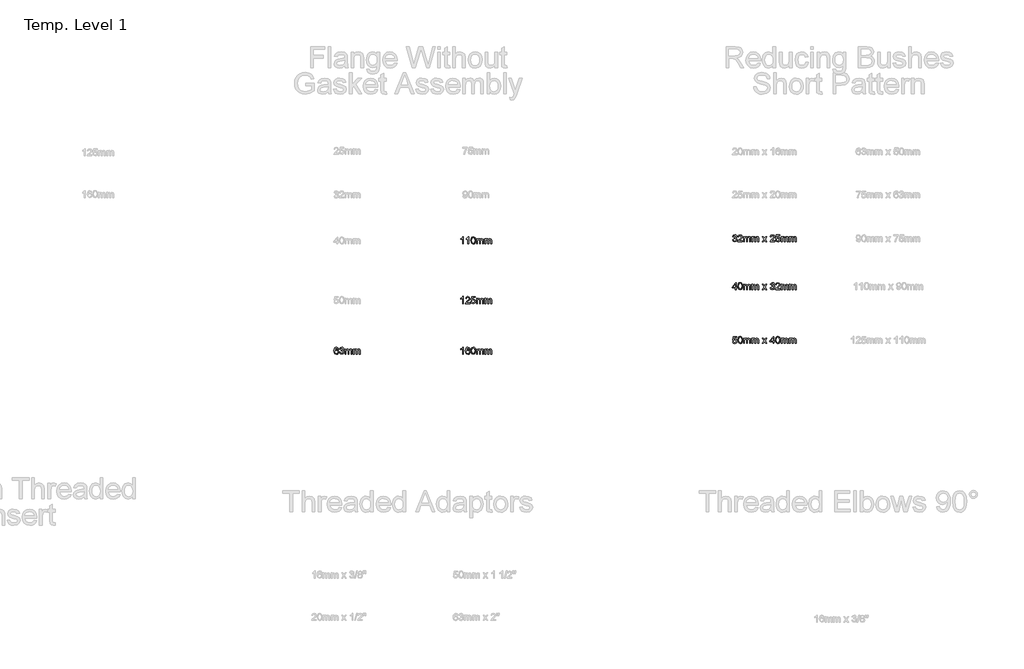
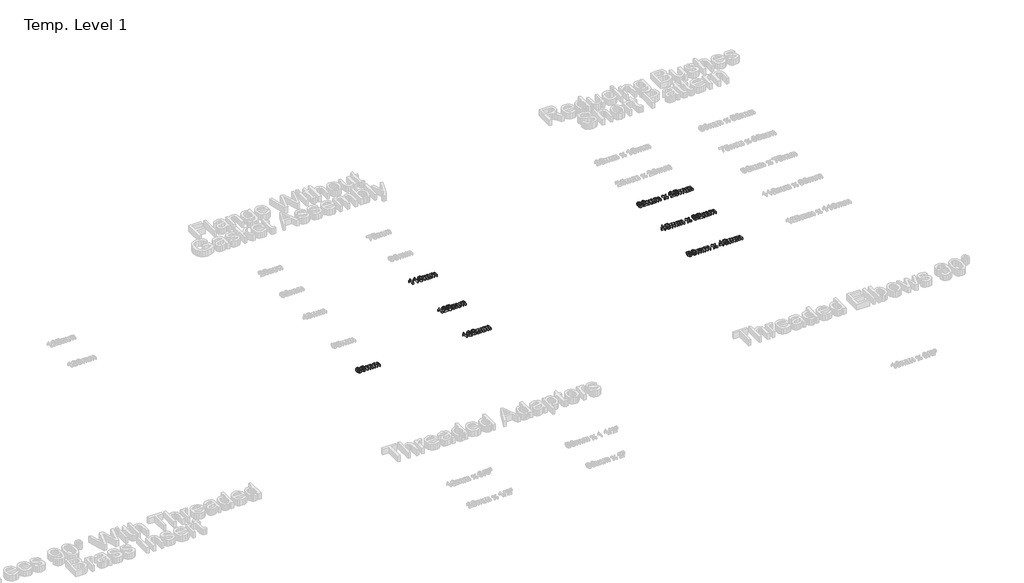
# One storey, part 22 of 62: 7 proxies.
"""IFC4 building model written with IfcOpenShell, lengths in millimetres."""

from ifc_helpers import new_model, si_unit, origin, origin_with_axes, place, context, project, spatial, polyline, outline, extrude, element, save

model = new_model("IFC4")

# Units and contexts
model_context = context("Model", 3, world=origin())
ifc_project = project(units=[si_unit("LENGTHUNIT", "METRE", prefix="MILLI")], contexts=[model_context])

# Site, building, storey
site = spatial("IfcSite", under=ifc_project)
building = spatial("IfcBuilding", under=site)
storey = spatial("IfcBuildingStorey", under=building, Name="Temp. Level 1", Elevation=0.0)

# Proxies
placement = place(None, origin())
element("IfcBuildingElementProxy", 1, Name="50mm Arial", ObjectType="50mm Arial", at=placement, inside=storey, context=model_context, shape_type="SweptSolid", body=[
    extrude(outline(polyline([(20936.7745802, -8936.3055311), (20930.620734, -8937.0747619), (20928.2890033, -8931.9425504), (20922.1231379, -8929.3824542), (20916.5702533, -8930.8728388), (20912.3695321, -8936.4677907), (20910.620734, -8947.4353388), (20916.0474167, -8942.525483), (20922.7721763, -8940.9209157), (20933.2289071, -8945.307935), (20937.5438109, -8956.6420696), (20935.5125609, -8965.1336561), (20929.9236186, -8971.1432715), (20921.8587148, -8973.228608), (20909.3166475, -8967.6997619), (20905.6793278, -8960.3800504), (20904.4668879, -8949.478608), (20905.8130417, -8937.2219975), (20909.8515033, -8928.8415888), (20915.3653254, -8924.6318532), (20922.5077533, -8923.228608), (20932.2313109, -8926.7021657), (20936.7745802, -8936.3055311)]), holes=[polyline([(20910.620734, -8956.5459157), (20912.0450129, -8961.8764446), (20915.8310706, -8965.7466369), (20921.3779456, -8967.0747619), (20928.6315513, -8964.322358), (20931.3899648, -8956.8463965), (20928.667609, -8949.6889446), (20921.1255417, -8947.0747619), (20913.6796283, -8949.6889446), (20910.620734, -8956.5459157)])]), origin_with_axes(), (0.0, 0.0, 1.0), 15.0),
    extrude(outline(polyline([(20942.9284263, -8959.3824542), (20949.0822725, -8958.6132234), (20952.4777052, -8965.0915888), (20958.8298686, -8967.0747619), (20966.3058302, -8964.3463965), (20969.0822725, -8957.5915888), (20966.3298686, -8951.2274061), (20959.3346763, -8948.7093773), (20955.0197725, -8949.3824542), (20955.7048686, -8943.228608), (20963.6736186, -8941.5338965), (20966.7745802, -8936.1012042), (20964.526984, -8931.2875023), (20958.7337148, -8929.3824542), (20952.8683302, -8931.3055311), (20949.8515033, -8937.0747619), (20943.6976571, -8936.3055311), (20948.7337148, -8926.6540888), (20958.5173686, -8923.228608), (20965.9392436, -8924.91731), (20971.1315513, -8929.5326946), (20972.9284263, -8935.7406273), (20971.2216956, -8941.4137042), (20966.1736186, -8945.4882234), (20972.8803494, -8949.6949542), (20975.2361186, -8957.6997619), (20970.5245802, -8968.7093773), (20958.6135225, -8973.228608), (20947.8202533, -8969.370435), (20942.9284263, -8959.3824542)])), origin_with_axes(), (0.0, 0.0, 1.0), 15.0),
    extrude(outline(polyline([(20982.1591956, -8972.4593773), (20982.1591956, -8936.3055311), (20988.3130417, -8936.3055311), (20988.3130417, -8942.2550504), (20992.5438109, -8937.3812523), (20998.5654456, -8935.5363004), (21004.7313109, -8937.41731), (21008.120734, -8942.6877427), (21012.9224167, -8937.3241609), (21018.9861186, -8935.5363004), (21027.0329936, -8938.51106), (21029.8515033, -8947.6757234), (21029.8515033, -8972.4593773), (21023.6976571, -8972.4593773), (21023.6976571, -8950.3199542), (21023.1267436, -8945.181733), (21021.0594359, -8942.651685), (21017.5438109, -8941.6901465), (21011.4921283, -8944.1540888), (21009.0822725, -8952.0507234), (21009.0822725, -8972.4593773), (21002.9284263, -8972.4593773), (21002.9284263, -8949.634858), (21001.5041475, -8943.6733196), (20996.8346763, -8941.6901465), (20992.2793879, -8943.0122619), (20989.2505417, -8946.8824542), (20988.3130417, -8954.2262042), (20988.3130417, -8972.4593773), (20982.1591956, -8972.4593773)])), origin_with_axes(), (0.0, 0.0, 1.0), 15.0),
    extrude(outline(polyline([(21039.0822725, -8972.4593773), (21039.0822725, -8936.3055311), (21045.2361186, -8936.3055311), (21045.2361186, -8942.2550504), (21049.4668879, -8937.3812523), (21055.4885225, -8935.5363004), (21061.6543879, -8937.41731), (21065.0438109, -8942.6877427), (21069.8454936, -8937.3241609), (21075.9091956, -8935.5363004), (21083.9560706, -8938.51106), (21086.7745802, -8947.6757234), (21086.7745802, -8972.4593773), (21080.620734, -8972.4593773), (21080.620734, -8950.3199542), (21080.0498206, -8945.181733), (21077.9825129, -8942.651685), (21074.4668879, -8941.6901465), (21068.4152052, -8944.1540888), (21066.0053494, -8952.0507234), (21066.0053494, -8972.4593773), (21059.8515033, -8972.4593773), (21059.8515033, -8949.634858), (21058.4272244, -8943.6733196), (21053.7577533, -8941.6901465), (21049.2024648, -8943.0122619), (21046.1736186, -8946.8824542), (21045.2361186, -8954.2262042), (21045.2361186, -8972.4593773), (21039.0822725, -8972.4593773)])), origin_with_axes(), (0.0, 0.0, 1.0), 15.0),
])
element("IfcBuildingElementProxy", 2, Name="50mm Arial", ObjectType="50mm Arial", at=placement, inside=storey, context=model_context, shape_type="SweptSolid", body=[
    extrude(outline(polyline([(21805.4668879, -8205.198517), (21799.3130417, -8205.198517), (21799.3130417, -8166.8331324), (21793.4837148, -8170.9857766), (21787.0053494, -8174.0927478), (21787.0053494, -8168.2754401), (21796.0257821, -8162.5182286), (21801.5005417, -8155.9677478), (21805.4668879, -8155.9677478), (21805.4668879, -8205.198517)])), origin_with_axes(), (0.0, 0.0, 1.0), 15.0),
    extrude(outline(polyline([(21843.1591956, -8205.198517), (21837.0053494, -8205.198517), (21837.0053494, -8166.8331324), (21831.1760225, -8170.9857766), (21824.6976571, -8174.0927478), (21824.6976571, -8168.2754401), (21833.7180898, -8162.5182286), (21839.1928494, -8155.9677478), (21843.1591956, -8155.9677478), (21843.1591956, -8205.198517)])), origin_with_axes(), (0.0, 0.0, 1.0), 15.0),
    extrude(outline(polyline([(21857.7745802, -8180.979767), (21859.5834744, -8166.8151036), (21864.9560706, -8158.6480362), (21873.9284263, -8155.9677478), (21881.1159263, -8157.5542862), (21886.0798686, -8162.1276036), (21888.964484, -8169.4112574), (21890.0822725, -8180.979767), (21888.2914071, -8195.0843343), (21882.9368398, -8203.2694305), (21873.9284263, -8205.9677478), (21862.6784263, -8201.2802478), (21859.0005417, -8192.9539257), (21857.7745802, -8180.979767)]), holes=[polyline([(21863.9284263, -8180.9677478), (21866.8130417, -8196.2501997), (21873.9284263, -8199.8139016), (21881.0438109, -8196.2381805), (21883.9284263, -8180.9677478), (21881.1399648, -8165.8595747), (21873.8563109, -8162.1215939), (21866.9091956, -8165.4148632), (21863.9284263, -8180.9677478)])]), origin_with_axes(), (0.0, 0.0, 1.0), 15.0),
    extrude(outline(polyline([(21897.0053494, -8205.198517), (21897.0053494, -8169.0446709), (21903.1591956, -8169.0446709), (21903.1591956, -8174.9941901), (21907.3899648, -8170.120392), (21913.4115994, -8168.2754401), (21919.5774648, -8170.1564497), (21922.9668879, -8175.4268824), (21927.7685706, -8170.0633007), (21933.8322725, -8168.2754401), (21941.8791475, -8171.2501997), (21944.6976571, -8180.4148632), (21944.6976571, -8205.198517), (21938.5438109, -8205.198517), (21938.5438109, -8183.0590939), (21937.9728975, -8177.9208728), (21935.9055898, -8175.3908247), (21932.3899648, -8174.4292862), (21926.3382821, -8176.8932286), (21923.9284263, -8184.7898632), (21923.9284263, -8205.198517), (21917.7745802, -8205.198517), (21917.7745802, -8182.3739978), (21916.3503013, -8176.4124593), (21911.6808302, -8174.4292862), (21907.1255417, -8175.7514016), (21904.0966956, -8179.6215939), (21903.1591956, -8186.9653439), (21903.1591956, -8205.198517), (21897.0053494, -8205.198517)])), origin_with_axes(), (0.0, 0.0, 1.0), 15.0),
    extrude(outline(polyline([(21953.9284263, -8205.198517), (21953.9284263, -8169.0446709), (21960.0822725, -8169.0446709), (21960.0822725, -8174.9941901), (21964.3130417, -8170.120392), (21970.3346763, -8168.2754401), (21976.5005417, -8170.1564497), (21979.8899648, -8175.4268824), (21984.6916475, -8170.0633007), (21990.7553494, -8168.2754401), (21998.8022244, -8171.2501997), (22001.620734, -8180.4148632), (22001.620734, -8205.198517), (21995.4668879, -8205.198517), (21995.4668879, -8183.0590939), (21994.8959744, -8177.9208728), (21992.8286667, -8175.3908247), (21989.3130417, -8174.4292862), (21983.261359, -8176.8932286), (21980.8515033, -8184.7898632), (21980.8515033, -8205.198517), (21974.6976571, -8205.198517), (21974.6976571, -8182.3739978), (21973.2733783, -8176.4124593), (21968.6039071, -8174.4292862), (21964.0486186, -8175.7514016), (21961.0197725, -8179.6215939), (21960.0822725, -8186.9653439), (21960.0822725, -8205.198517), (21953.9284263, -8205.198517)])), origin_with_axes(), (0.0, 0.0, 1.0), 15.0),
])
element("IfcBuildingElementProxy", 3, Name="50mm Arial", ObjectType="50mm Arial", at=placement, inside=storey, context=model_context, shape_type="SweptSolid", body=[
    extrude(outline(polyline([(21805.4668879, -8619.9593773), (21799.3130417, -8619.9593773), (21799.3130417, -8581.5939927), (21793.4837148, -8585.7466369), (21787.0053494, -8588.853608), (21787.0053494, -8583.0363004), (21796.0257821, -8577.2790888), (21801.5005417, -8570.728608), (21805.4668879, -8570.728608), (21805.4668879, -8619.9593773)])), origin_with_axes(), (0.0, 0.0, 1.0), 15.0),
    extrude(outline(polyline([(21851.620734, -8613.8055311), (21851.620734, -8619.9593773), (21819.3130417, -8619.9593773), (21819.9740994, -8615.7165888), (21823.7120802, -8609.1841369), (21831.4164071, -8602.0507234), (21842.0414071, -8591.7983196), (21844.6976571, -8584.8271657), (21842.1916475, -8579.1841369), (21835.6471763, -8576.8824542), (21828.8262629, -8579.1300504), (21826.2361186, -8585.3439927), (21820.0822725, -8584.5747619), (21824.7998206, -8574.2742811), (21835.7793879, -8570.728608), (21846.7950129, -8574.6709157), (21850.8515033, -8584.4545696), (21849.7577533, -8590.2899061), (21846.1219359, -8596.32356), (21837.3058302, -8604.7550504), (21830.2265033, -8610.6745215), (21827.4500609, -8613.8055311), (21851.620734, -8613.8055311)])), origin_with_axes(), (0.0, 0.0, 1.0), 15.0),
    extrude(outline(polyline([(21857.7745802, -8606.8824542), (21863.9284263, -8606.1132234), (21867.0293879, -8612.4533677), (21873.4596763, -8614.5747619), (21881.1760225, -8611.6240407), (21883.9284263, -8603.7935119), (21881.3503013, -8596.4858196), (21873.5558302, -8593.8055311), (21868.1531859, -8594.8752427), (21864.6976571, -8597.651685), (21858.5438109, -8596.8824542), (21863.9284263, -8571.4978388), (21887.7745802, -8571.4978388), (21887.7745802, -8577.651685), (21868.9043879, -8577.651685), (21866.2721763, -8591.2093773), (21875.2745802, -8587.651685), (21885.7974167, -8592.0627427), (21890.0822725, -8603.4088965), (21886.2240994, -8614.8271657), (21880.683234, -8619.2532475), (21873.4356379, -8620.728608), (21862.5762629, -8616.9365407), (21857.7745802, -8606.8824542)])), origin_with_axes(), (0.0, 0.0, 1.0), 15.0),
    extrude(outline(polyline([(21897.0053494, -8619.9593773), (21897.0053494, -8583.8055311), (21903.1591956, -8583.8055311), (21903.1591956, -8589.7550504), (21907.3899648, -8584.8812523), (21913.4115994, -8583.0363004), (21919.5774648, -8584.91731), (21922.9668879, -8590.1877427), (21927.7685706, -8584.8241609), (21933.8322725, -8583.0363004), (21941.8791475, -8586.01106), (21944.6976571, -8595.1757234), (21944.6976571, -8619.9593773), (21938.5438109, -8619.9593773), (21938.5438109, -8597.8199542), (21937.9728975, -8592.681733), (21935.9055898, -8590.151685), (21932.3899648, -8589.1901465), (21926.3382821, -8591.6540888), (21923.9284263, -8599.5507234), (21923.9284263, -8619.9593773), (21917.7745802, -8619.9593773), (21917.7745802, -8597.134858), (21916.3503013, -8591.1733196), (21911.6808302, -8589.1901465), (21907.1255417, -8590.5122619), (21904.0966956, -8594.3824542), (21903.1591956, -8601.7262042), (21903.1591956, -8619.9593773), (21897.0053494, -8619.9593773)])), origin_with_axes(), (0.0, 0.0, 1.0), 15.0),
    extrude(outline(polyline([(21953.9284263, -8619.9593773), (21953.9284263, -8583.8055311), (21960.0822725, -8583.8055311), (21960.0822725, -8589.7550504), (21964.3130417, -8584.8812523), (21970.3346763, -8583.0363004), (21976.5005417, -8584.91731), (21979.8899648, -8590.1877427), (21984.6916475, -8584.8241609), (21990.7553494, -8583.0363004), (21998.8022244, -8586.01106), (22001.620734, -8595.1757234), (22001.620734, -8619.9593773), (21995.4668879, -8619.9593773), (21995.4668879, -8597.8199542), (21994.8959744, -8592.681733), (21992.8286667, -8590.151685), (21989.3130417, -8589.1901465), (21983.261359, -8591.6540888), (21980.8515033, -8599.5507234), (21980.8515033, -8619.9593773), (21974.6976571, -8619.9593773), (21974.6976571, -8597.134858), (21973.2733783, -8591.1733196), (21968.6039071, -8589.1901465), (21964.0486186, -8590.5122619), (21961.0197725, -8594.3824542), (21960.0822725, -8601.7262042), (21960.0822725, -8619.9593773), (21953.9284263, -8619.9593773)])), origin_with_axes(), (0.0, 0.0, 1.0), 15.0),
])
element("IfcBuildingElementProxy", 4, Name="50mm Arial", ObjectType="50mm Arial", at=placement, inside=storey, context=model_context, shape_type="SweptSolid", body=[
    extrude(outline(polyline([(21805.4668879, -8972.4593773), (21799.3130417, -8972.4593773), (21799.3130417, -8934.0939927), (21793.4837148, -8938.2466369), (21787.0053494, -8941.353608), (21787.0053494, -8935.5363004), (21796.0257821, -8929.7790888), (21801.5005417, -8923.228608), (21805.4668879, -8923.228608), (21805.4668879, -8972.4593773)])), origin_with_axes(), (0.0, 0.0, 1.0), 15.0),
    extrude(outline(polyline([(21851.620734, -8936.3055311), (21845.4668879, -8937.0747619), (21843.1351571, -8931.9425504), (21836.9692917, -8929.3824542), (21831.4164071, -8930.8728388), (21827.2156859, -8936.4677907), (21825.4668879, -8947.4353388), (21830.8935706, -8942.525483), (21837.6183302, -8940.9209157), (21848.0750609, -8945.307935), (21852.3899648, -8956.6420696), (21850.3587148, -8965.1336561), (21844.7697725, -8971.1432715), (21836.7048686, -8973.228608), (21824.1628013, -8967.6997619), (21820.5254816, -8960.3800504), (21819.3130417, -8949.478608), (21820.6591956, -8937.2219975), (21824.6976571, -8928.8415888), (21830.2114792, -8924.6318532), (21837.3539071, -8923.228608), (21847.0774648, -8926.7021657), (21851.620734, -8936.3055311)]), holes=[polyline([(21825.4668879, -8956.5459157), (21826.8911667, -8961.8764446), (21830.6772244, -8965.7466369), (21836.2240994, -8967.0747619), (21843.4777052, -8964.322358), (21846.2361186, -8956.8463965), (21843.5137629, -8949.6889446), (21835.9716956, -8947.0747619), (21828.5257821, -8949.6889446), (21825.4668879, -8956.5459157)])]), origin_with_axes(), (0.0, 0.0, 1.0), 15.0),
    extrude(outline(polyline([(21857.7745802, -8948.2406273), (21859.5834744, -8934.0759638), (21864.9560706, -8925.9088965), (21873.9284263, -8923.228608), (21881.1159263, -8924.8151465), (21886.0798686, -8929.3884638), (21888.964484, -8936.6721177), (21890.0822725, -8948.2406273), (21888.2914071, -8962.3451946), (21882.9368398, -8970.5302907), (21873.9284263, -8973.228608), (21862.6784263, -8968.541108), (21859.0005417, -8960.2147859), (21857.7745802, -8948.2406273)]), holes=[polyline([(21863.9284263, -8948.228608), (21866.8130417, -8963.51106), (21873.9284263, -8967.0747619), (21881.0438109, -8963.4990407), (21883.9284263, -8948.228608), (21881.1399648, -8933.120435), (21873.8563109, -8929.3824542), (21866.9091956, -8932.6757234), (21863.9284263, -8948.228608)])]), origin_with_axes(), (0.0, 0.0, 1.0), 15.0),
    extrude(outline(polyline([(21897.0053494, -8972.4593773), (21897.0053494, -8936.3055311), (21903.1591956, -8936.3055311), (21903.1591956, -8942.2550504), (21907.3899648, -8937.3812523), (21913.4115994, -8935.5363004), (21919.5774648, -8937.41731), (21922.9668879, -8942.6877427), (21927.7685706, -8937.3241609), (21933.8322725, -8935.5363004), (21941.8791475, -8938.51106), (21944.6976571, -8947.6757234), (21944.6976571, -8972.4593773), (21938.5438109, -8972.4593773), (21938.5438109, -8950.3199542), (21937.9728975, -8945.181733), (21935.9055898, -8942.651685), (21932.3899648, -8941.6901465), (21926.3382821, -8944.1540888), (21923.9284263, -8952.0507234), (21923.9284263, -8972.4593773), (21917.7745802, -8972.4593773), (21917.7745802, -8949.634858), (21916.3503013, -8943.6733196), (21911.6808302, -8941.6901465), (21907.1255417, -8943.0122619), (21904.0966956, -8946.8824542), (21903.1591956, -8954.2262042), (21903.1591956, -8972.4593773), (21897.0053494, -8972.4593773)])), origin_with_axes(), (0.0, 0.0, 1.0), 15.0),
    extrude(outline(polyline([(21953.9284263, -8972.4593773), (21953.9284263, -8936.3055311), (21960.0822725, -8936.3055311), (21960.0822725, -8942.2550504), (21964.3130417, -8937.3812523), (21970.3346763, -8935.5363004), (21976.5005417, -8937.41731), (21979.8899648, -8942.6877427), (21984.6916475, -8937.3241609), (21990.7553494, -8935.5363004), (21998.8022244, -8938.51106), (22001.620734, -8947.6757234), (22001.620734, -8972.4593773), (21995.4668879, -8972.4593773), (21995.4668879, -8950.3199542), (21994.8959744, -8945.181733), (21992.8286667, -8942.651685), (21989.3130417, -8941.6901465), (21983.261359, -8944.1540888), (21980.8515033, -8952.0507234), (21980.8515033, -8972.4593773), (21974.6976571, -8972.4593773), (21974.6976571, -8949.634858), (21973.2733783, -8943.6733196), (21968.6039071, -8941.6901465), (21964.0486186, -8943.0122619), (21961.0197725, -8946.8824542), (21960.0822725, -8954.2262042), (21960.0822725, -8972.4593773), (21953.9284263, -8972.4593773)])), origin_with_axes(), (0.0, 0.0, 1.0), 15.0),
])
element("IfcBuildingElementProxy", 5, Name="50mm Arial", ObjectType="50mm Arial", at=placement, inside=storey, context=model_context, shape_type="SweptSolid", body=[
    extrude(outline(polyline([(23678.0515626, -8177.198222), (23684.2054088, -8176.4289913), (23687.6008415, -8182.9073566), (23693.9530049, -8184.8905297), (23701.4289665, -8182.1621643), (23704.2054088, -8175.4073566), (23701.4530049, -8169.043174), (23694.4578126, -8166.5251451), (23690.1429088, -8167.198222), (23690.8280049, -8161.0443759), (23698.7967549, -8159.3496643), (23701.8977165, -8153.916972), (23699.6501203, -8149.1032701), (23693.8568511, -8147.198222), (23687.9914665, -8149.121299), (23684.9746395, -8154.8905297), (23678.8207934, -8154.121299), (23683.8568511, -8144.4698566), (23693.6405049, -8141.0443759), (23701.0623799, -8142.7330778), (23706.2546876, -8147.3484624), (23708.0515626, -8153.5563951), (23706.3448318, -8159.229472), (23701.2967549, -8163.3039913), (23708.0034857, -8167.510722), (23710.3592549, -8175.5155297), (23705.6477165, -8186.5251451), (23693.7366588, -8191.0443759), (23682.9433895, -8187.1862028), (23678.0515626, -8177.198222)])), origin_with_axes(), (0.0, 0.0, 1.0), 15.0),
    extrude(outline(polyline([(23747.2823318, -8184.121299), (23747.2823318, -8190.2751451), (23714.9746395, -8190.2751451), (23715.6356972, -8186.0323566), (23719.373678, -8179.4999047), (23727.0780049, -8172.3664913), (23737.7030049, -8162.1140874), (23740.3592549, -8155.1429336), (23737.8532453, -8149.4999047), (23731.3087742, -8147.198222), (23724.4878607, -8149.4458182), (23721.8977165, -8155.6597605), (23715.7438703, -8154.8905297), (23720.4614184, -8144.590049), (23731.4409857, -8141.0443759), (23742.4566107, -8144.9866836), (23746.5131011, -8154.7703374), (23745.4193511, -8160.605674), (23741.7835338, -8166.6393278), (23732.967428, -8175.0708182), (23725.8881011, -8180.9902893), (23723.1116588, -8184.121299), (23747.2823318, -8184.121299)])), origin_with_axes(), (0.0, 0.0, 1.0), 15.0),
    extrude(outline(polyline([(23754.9746395, -8190.2751451), (23754.9746395, -8154.121299), (23761.1284857, -8154.121299), (23761.1284857, -8160.0708182), (23765.3592549, -8155.1970201), (23771.3808895, -8153.3520682), (23777.5467549, -8155.2330778), (23780.936178, -8160.5035105), (23785.7378607, -8155.1399288), (23791.8015626, -8153.3520682), (23799.8484376, -8156.3268278), (23802.6669472, -8165.4914913), (23802.6669472, -8190.2751451), (23796.5131011, -8190.2751451), (23796.5131011, -8168.135722), (23795.9421876, -8162.9975009), (23793.8748799, -8160.4674528), (23790.3592549, -8159.5059143), (23784.3075722, -8161.9698566), (23781.8977165, -8169.8664913), (23781.8977165, -8190.2751451), (23775.7438703, -8190.2751451), (23775.7438703, -8167.4506259), (23774.3195915, -8161.4890874), (23769.6501203, -8159.5059143), (23765.0948318, -8160.8280297), (23762.0659857, -8164.698222), (23761.1284857, -8172.041972), (23761.1284857, -8190.2751451), (23754.9746395, -8190.2751451)])), origin_with_axes(), (0.0, 0.0, 1.0), 15.0),
    extrude(outline(polyline([(23811.8977165, -8190.2751451), (23811.8977165, -8154.121299), (23818.0515626, -8154.121299), (23818.0515626, -8160.0708182), (23822.2823318, -8155.1970201), (23828.3039665, -8153.3520682), (23834.4698318, -8155.2330778), (23837.8592549, -8160.5035105), (23842.6609376, -8155.1399288), (23848.7246395, -8153.3520682), (23856.7715145, -8156.3268278), (23859.5900242, -8165.4914913), (23859.5900242, -8190.2751451), (23853.436178, -8190.2751451), (23853.436178, -8168.135722), (23852.8652645, -8162.9975009), (23850.7979568, -8160.4674528), (23847.2823318, -8159.5059143), (23841.2306492, -8161.9698566), (23838.8207934, -8169.8664913), (23838.8207934, -8190.2751451), (23832.6669472, -8190.2751451), (23832.6669472, -8167.4506259), (23831.2426684, -8161.4890874), (23826.5731972, -8159.5059143), (23822.0179088, -8160.8280297), (23818.9890626, -8164.698222), (23818.0515626, -8172.041972), (23818.0515626, -8190.2751451), (23811.8977165, -8190.2751451)])), origin_with_axes(), (0.0, 0.0, 1.0), 15.0),
    extrude(outline(polyline([(23884.2054088, -8190.2751451), (23897.3544472, -8172.1020682), (23884.9746395, -8154.121299), (23892.3784857, -8154.121299), (23898.3520434, -8162.7751451), (23901.1405049, -8166.8616836), (23903.5563703, -8163.5203374), (23910.3592549, -8154.121299), (23917.7631011, -8154.121299), (23904.7582934, -8172.1020682), (23917.2823318, -8190.2751451), (23909.8784857, -8190.2751451), (23902.342428, -8179.3496643), (23900.9602165, -8177.354472), (23891.6092549, -8190.2751451), (23884.2054088, -8190.2751451)])), origin_with_axes(), (0.0, 0.0, 1.0), 15.0),
    extrude(outline(polyline([(23971.8977165, -8184.121299), (23971.8977165, -8190.2751451), (23939.5900242, -8190.2751451), (23940.2510818, -8186.0323566), (23943.9890626, -8179.4999047), (23951.6933895, -8172.3664913), (23962.3183895, -8162.1140874), (23964.9746395, -8155.1429336), (23962.4686299, -8149.4999047), (23955.9241588, -8147.198222), (23949.1032453, -8149.4458182), (23946.5131011, -8155.6597605), (23940.3592549, -8154.8905297), (23945.076803, -8144.590049), (23956.0563703, -8141.0443759), (23967.0719953, -8144.9866836), (23971.1284857, -8154.7703374), (23970.0347357, -8160.605674), (23966.3989184, -8166.6393278), (23957.5828126, -8175.0708182), (23950.5034857, -8180.9902893), (23947.7270434, -8184.121299), (23971.8977165, -8184.121299)])), origin_with_axes(), (0.0, 0.0, 1.0), 15.0),
    extrude(outline(polyline([(23978.0515626, -8177.198222), (23984.2054088, -8176.4289913), (23987.3063703, -8182.7691355), (23993.7366588, -8184.8905297), (24001.4530049, -8181.9398086), (24004.2054088, -8174.1092797), (24001.6272838, -8166.8015874), (23993.8328126, -8164.121299), (23988.4301684, -8165.1910105), (23984.9746395, -8167.9674528), (23978.8207934, -8167.198222), (23984.2054088, -8141.8136066), (24008.0515626, -8141.8136066), (24008.0515626, -8147.9674528), (23989.1813703, -8147.9674528), (23986.5491588, -8161.5251451), (23995.5515626, -8157.9674528), (24006.0743992, -8162.3785105), (24010.3592549, -8173.7246643), (24006.5010818, -8185.1429336), (24000.9602165, -8189.5690153), (23993.7126203, -8191.0443759), (23982.8532453, -8187.2523086), (23978.0515626, -8177.198222)])), origin_with_axes(), (0.0, 0.0, 1.0), 15.0),
    extrude(outline(polyline([(24017.2823318, -8190.2751451), (24017.2823318, -8154.121299), (24023.436178, -8154.121299), (24023.436178, -8160.0708182), (24027.6669472, -8155.1970201), (24033.6885818, -8153.3520682), (24039.8544472, -8155.2330778), (24043.2438703, -8160.5035105), (24048.045553, -8155.1399288), (24054.1092549, -8153.3520682), (24062.1561299, -8156.3268278), (24064.9746395, -8165.4914913), (24064.9746395, -8190.2751451), (24058.8207934, -8190.2751451), (24058.8207934, -8168.135722), (24058.2498799, -8162.9975009), (24056.1825722, -8160.4674528), (24052.6669472, -8159.5059143), (24046.6152645, -8161.9698566), (24044.2054088, -8169.8664913), (24044.2054088, -8190.2751451), (24038.0515626, -8190.2751451), (24038.0515626, -8167.4506259), (24036.6272838, -8161.4890874), (24031.9578126, -8159.5059143), (24027.4025242, -8160.8280297), (24024.373678, -8164.698222), (24023.436178, -8172.041972), (24023.436178, -8190.2751451), (24017.2823318, -8190.2751451)])), origin_with_axes(), (0.0, 0.0, 1.0), 15.0),
    extrude(outline(polyline([(24074.2054088, -8190.2751451), (24074.2054088, -8154.121299), (24080.3592549, -8154.121299), (24080.3592549, -8160.0708182), (24084.5900242, -8155.1970201), (24090.6116588, -8153.3520682), (24096.7775242, -8155.2330778), (24100.1669472, -8160.5035105), (24104.9686299, -8155.1399288), (24111.0323318, -8153.3520682), (24119.0792068, -8156.3268278), (24121.8977165, -8165.4914913), (24121.8977165, -8190.2751451), (24115.7438703, -8190.2751451), (24115.7438703, -8168.135722), (24115.1729568, -8162.9975009), (24113.1056492, -8160.4674528), (24109.5900242, -8159.5059143), (24103.5383415, -8161.9698566), (24101.1284857, -8169.8664913), (24101.1284857, -8190.2751451), (24094.9746395, -8190.2751451), (24094.9746395, -8167.4506259), (24093.5503607, -8161.4890874), (24088.8808895, -8159.5059143), (24084.3256011, -8160.8280297), (24081.2967549, -8164.698222), (24080.3592549, -8172.041972), (24080.3592549, -8190.2751451), (24074.2054088, -8190.2751451)])), origin_with_axes(), (0.0, 0.0, 1.0), 15.0),
])
element("IfcBuildingElementProxy", 6, Name="50mm Arial", ObjectType="50mm Arial", at=placement, inside=storey, context=model_context, shape_type="SweptSolid", body=[
    extrude(outline(polyline([(23698.0515626, -8522.7751451), (23698.0515626, -8511.2366836), (23675.7438703, -8511.2366836), (23675.7438703, -8505.0828374), (23699.5900242, -8474.3136066), (23704.2054088, -8474.3136066), (23704.2054088, -8505.0828374), (23710.3592549, -8505.0828374), (23710.3592549, -8511.2366836), (23704.2054088, -8511.2366836), (23704.2054088, -8522.7751451), (23698.0515626, -8522.7751451)]), holes=[polyline([(23698.0515626, -8505.0828374), (23698.0515626, -8486.0684143), (23683.3159857, -8505.0828374), (23698.0515626, -8505.0828374)])]), origin_with_axes(), (0.0, 0.0, 1.0), 15.0),
    extrude(outline(polyline([(23715.7438703, -8498.5563951), (23717.5527645, -8484.3917316), (23722.9253607, -8476.2246643), (23731.8977165, -8473.5443759), (23739.0852165, -8475.1309143), (23744.0491588, -8479.7042316), (23746.9337742, -8486.9878855), (23748.0515626, -8498.5563951), (23746.2606972, -8512.6609624), (23740.9061299, -8520.8460586), (23731.8977165, -8523.5443759), (23720.6477165, -8518.8568759), (23716.9698318, -8510.5305538), (23715.7438703, -8498.5563951)]), holes=[polyline([(23721.8977165, -8498.5443759), (23724.7823318, -8513.8268278), (23731.8977165, -8517.3905297), (23739.0131011, -8513.8148086), (23741.8977165, -8498.5443759), (23739.1092549, -8483.4362028), (23731.8256011, -8479.698222), (23724.8784857, -8482.9914913), (23721.8977165, -8498.5443759)])]), origin_with_axes(), (0.0, 0.0, 1.0), 15.0),
    extrude(outline(polyline([(23754.9746395, -8522.7751451), (23754.9746395, -8486.621299), (23761.1284857, -8486.621299), (23761.1284857, -8492.5708182), (23765.3592549, -8487.6970201), (23771.3808895, -8485.8520682), (23777.5467549, -8487.7330778), (23780.936178, -8493.0035105), (23785.7378607, -8487.6399288), (23791.8015626, -8485.8520682), (23799.8484376, -8488.8268278), (23802.6669472, -8497.9914913), (23802.6669472, -8522.7751451), (23796.5131011, -8522.7751451), (23796.5131011, -8500.635722), (23795.9421876, -8495.4975009), (23793.8748799, -8492.9674528), (23790.3592549, -8492.0059143), (23784.3075722, -8494.4698566), (23781.8977165, -8502.3664913), (23781.8977165, -8522.7751451), (23775.7438703, -8522.7751451), (23775.7438703, -8499.9506259), (23774.3195915, -8493.9890874), (23769.6501203, -8492.0059143), (23765.0948318, -8493.3280297), (23762.0659857, -8497.198222), (23761.1284857, -8504.541972), (23761.1284857, -8522.7751451), (23754.9746395, -8522.7751451)])), origin_with_axes(), (0.0, 0.0, 1.0), 15.0),
    extrude(outline(polyline([(23811.8977165, -8522.7751451), (23811.8977165, -8486.621299), (23818.0515626, -8486.621299), (23818.0515626, -8492.5708182), (23822.2823318, -8487.6970201), (23828.3039665, -8485.8520682), (23834.4698318, -8487.7330778), (23837.8592549, -8493.0035105), (23842.6609376, -8487.6399288), (23848.7246395, -8485.8520682), (23856.7715145, -8488.8268278), (23859.5900242, -8497.9914913), (23859.5900242, -8522.7751451), (23853.436178, -8522.7751451), (23853.436178, -8500.635722), (23852.8652645, -8495.4975009), (23850.7979568, -8492.9674528), (23847.2823318, -8492.0059143), (23841.2306492, -8494.4698566), (23838.8207934, -8502.3664913), (23838.8207934, -8522.7751451), (23832.6669472, -8522.7751451), (23832.6669472, -8499.9506259), (23831.2426684, -8493.9890874), (23826.5731972, -8492.0059143), (23822.0179088, -8493.3280297), (23818.9890626, -8497.198222), (23818.0515626, -8504.541972), (23818.0515626, -8522.7751451), (23811.8977165, -8522.7751451)])), origin_with_axes(), (0.0, 0.0, 1.0), 15.0),
    extrude(outline(polyline([(23884.2054088, -8522.7751451), (23897.3544472, -8504.6020682), (23884.9746395, -8486.621299), (23892.3784857, -8486.621299), (23898.3520434, -8495.2751451), (23901.1405049, -8499.3616836), (23903.5563703, -8496.0203374), (23910.3592549, -8486.621299), (23917.7631011, -8486.621299), (23904.7582934, -8504.6020682), (23917.2823318, -8522.7751451), (23909.8784857, -8522.7751451), (23902.342428, -8511.8496643), (23900.9602165, -8509.854472), (23891.6092549, -8522.7751451), (23884.2054088, -8522.7751451)])), origin_with_axes(), (0.0, 0.0, 1.0), 15.0),
    extrude(outline(polyline([(23940.3592549, -8509.698222), (23946.5131011, -8508.9289913), (23949.9085338, -8515.4073566), (23956.2606972, -8517.3905297), (23963.7366588, -8514.6621643), (23966.5131011, -8507.9073566), (23963.7606972, -8501.543174), (23956.7655049, -8499.0251451), (23952.4506011, -8499.698222), (23953.1356972, -8493.5443759), (23961.1044472, -8491.8496643), (23964.2054088, -8486.416972), (23961.9578126, -8481.6032701), (23956.1645434, -8479.698222), (23950.2991588, -8481.621299), (23947.2823318, -8487.3905297), (23941.1284857, -8486.621299), (23946.1645434, -8476.9698566), (23955.9481972, -8473.5443759), (23963.3700722, -8475.2330778), (23968.5623799, -8479.8484624), (23970.3592549, -8486.0563951), (23968.6525242, -8491.729472), (23963.6044472, -8495.8039913), (23970.311178, -8500.010722), (23972.6669472, -8508.0155297), (23967.9554088, -8519.0251451), (23956.0443511, -8523.5443759), (23945.2510818, -8519.6862028), (23940.3592549, -8509.698222)])), origin_with_axes(), (0.0, 0.0, 1.0), 15.0),
    extrude(outline(polyline([(24009.5900242, -8516.621299), (24009.5900242, -8522.7751451), (23977.2823318, -8522.7751451), (23977.9433895, -8518.5323566), (23981.6813703, -8511.9999047), (23989.3856972, -8504.8664913), (24000.0106972, -8494.6140874), (24002.6669472, -8487.6429336), (24000.1609376, -8481.9999047), (23993.6164665, -8479.698222), (23986.795553, -8481.9458182), (23984.2054088, -8488.1597605), (23978.0515626, -8487.3905297), (23982.7691107, -8477.090049), (23993.748678, -8473.5443759), (24004.764303, -8477.4866836), (24008.8207934, -8487.2703374), (24007.7270434, -8493.105674), (24004.0912261, -8499.1393278), (23995.2751203, -8507.5708182), (23988.1957934, -8513.4902893), (23985.4193511, -8516.621299), (24009.5900242, -8516.621299)])), origin_with_axes(), (0.0, 0.0, 1.0), 15.0),
    extrude(outline(polyline([(24017.2823318, -8522.7751451), (24017.2823318, -8486.621299), (24023.436178, -8486.621299), (24023.436178, -8492.5708182), (24027.6669472, -8487.6970201), (24033.6885818, -8485.8520682), (24039.8544472, -8487.7330778), (24043.2438703, -8493.0035105), (24048.045553, -8487.6399288), (24054.1092549, -8485.8520682), (24062.1561299, -8488.8268278), (24064.9746395, -8497.9914913), (24064.9746395, -8522.7751451), (24058.8207934, -8522.7751451), (24058.8207934, -8500.635722), (24058.2498799, -8495.4975009), (24056.1825722, -8492.9674528), (24052.6669472, -8492.0059143), (24046.6152645, -8494.4698566), (24044.2054088, -8502.3664913), (24044.2054088, -8522.7751451), (24038.0515626, -8522.7751451), (24038.0515626, -8499.9506259), (24036.6272838, -8493.9890874), (24031.9578126, -8492.0059143), (24027.4025242, -8493.3280297), (24024.373678, -8497.198222), (24023.436178, -8504.541972), (24023.436178, -8522.7751451), (24017.2823318, -8522.7751451)])), origin_with_axes(), (0.0, 0.0, 1.0), 15.0),
    extrude(outline(polyline([(24074.2054088, -8522.7751451), (24074.2054088, -8486.621299), (24080.3592549, -8486.621299), (24080.3592549, -8492.5708182), (24084.5900242, -8487.6970201), (24090.6116588, -8485.8520682), (24096.7775242, -8487.7330778), (24100.1669472, -8493.0035105), (24104.9686299, -8487.6399288), (24111.0323318, -8485.8520682), (24119.0792068, -8488.8268278), (24121.8977165, -8497.9914913), (24121.8977165, -8522.7751451), (24115.7438703, -8522.7751451), (24115.7438703, -8500.635722), (24115.1729568, -8495.4975009), (24113.1056492, -8492.9674528), (24109.5900242, -8492.0059143), (24103.5383415, -8494.4698566), (24101.1284857, -8502.3664913), (24101.1284857, -8522.7751451), (24094.9746395, -8522.7751451), (24094.9746395, -8499.9506259), (24093.5503607, -8493.9890874), (24088.8808895, -8492.0059143), (24084.3256011, -8493.3280297), (24081.2967549, -8497.198222), (24080.3592549, -8504.541972), (24080.3592549, -8522.7751451), (24074.2054088, -8522.7751451)])), origin_with_axes(), (0.0, 0.0, 1.0), 15.0),
])
element("IfcBuildingElementProxy", 7, Name="50mm Arial", ObjectType="50mm Arial", at=placement, inside=storey, context=model_context, shape_type="SweptSolid", body=[
    extrude(outline(polyline([(23678.0515626, -8884.698222), (23684.2054088, -8883.9289913), (23687.3063703, -8890.2691355), (23693.7366588, -8892.3905297), (23701.4530049, -8889.4398086), (23704.2054088, -8881.6092797), (23701.6272838, -8874.3015874), (23693.8328126, -8871.621299), (23688.4301684, -8872.6910105), (23684.9746395, -8875.4674528), (23678.8207934, -8874.698222), (23684.2054088, -8849.3136066), (23708.0515626, -8849.3136066), (23708.0515626, -8855.4674528), (23689.1813703, -8855.4674528), (23686.5491588, -8869.0251451), (23695.5515626, -8865.4674528), (23706.0743992, -8869.8785105), (23710.3592549, -8881.2246643), (23706.5010818, -8892.6429336), (23700.9602165, -8897.0690153), (23693.7126203, -8898.5443759), (23682.8532453, -8894.7523086), (23678.0515626, -8884.698222)])), origin_with_axes(), (0.0, 0.0, 1.0), 15.0),
    extrude(outline(polyline([(23715.7438703, -8873.5563951), (23717.5527645, -8859.3917316), (23722.9253607, -8851.2246643), (23731.8977165, -8848.5443759), (23739.0852165, -8850.1309143), (23744.0491588, -8854.7042316), (23746.9337742, -8861.9878855), (23748.0515626, -8873.5563951), (23746.2606972, -8887.6609624), (23740.9061299, -8895.8460586), (23731.8977165, -8898.5443759), (23720.6477165, -8893.8568759), (23716.9698318, -8885.5305538), (23715.7438703, -8873.5563951)]), holes=[polyline([(23721.8977165, -8873.5443759), (23724.7823318, -8888.8268278), (23731.8977165, -8892.3905297), (23739.0131011, -8888.8148086), (23741.8977165, -8873.5443759), (23739.1092549, -8858.4362028), (23731.8256011, -8854.698222), (23724.8784857, -8857.9914913), (23721.8977165, -8873.5443759)])]), origin_with_axes(), (0.0, 0.0, 1.0), 15.0),
    extrude(outline(polyline([(23754.9746395, -8897.7751451), (23754.9746395, -8861.621299), (23761.1284857, -8861.621299), (23761.1284857, -8867.5708182), (23765.3592549, -8862.6970201), (23771.3808895, -8860.8520682), (23777.5467549, -8862.7330778), (23780.936178, -8868.0035105), (23785.7378607, -8862.6399288), (23791.8015626, -8860.8520682), (23799.8484376, -8863.8268278), (23802.6669472, -8872.9914913), (23802.6669472, -8897.7751451), (23796.5131011, -8897.7751451), (23796.5131011, -8875.635722), (23795.9421876, -8870.4975009), (23793.8748799, -8867.9674528), (23790.3592549, -8867.0059143), (23784.3075722, -8869.4698566), (23781.8977165, -8877.3664913), (23781.8977165, -8897.7751451), (23775.7438703, -8897.7751451), (23775.7438703, -8874.9506259), (23774.3195915, -8868.9890874), (23769.6501203, -8867.0059143), (23765.0948318, -8868.3280297), (23762.0659857, -8872.198222), (23761.1284857, -8879.541972), (23761.1284857, -8897.7751451), (23754.9746395, -8897.7751451)])), origin_with_axes(), (0.0, 0.0, 1.0), 15.0),
    extrude(outline(polyline([(23811.8977165, -8897.7751451), (23811.8977165, -8861.621299), (23818.0515626, -8861.621299), (23818.0515626, -8867.5708182), (23822.2823318, -8862.6970201), (23828.3039665, -8860.8520682), (23834.4698318, -8862.7330778), (23837.8592549, -8868.0035105), (23842.6609376, -8862.6399288), (23848.7246395, -8860.8520682), (23856.7715145, -8863.8268278), (23859.5900242, -8872.9914913), (23859.5900242, -8897.7751451), (23853.436178, -8897.7751451), (23853.436178, -8875.635722), (23852.8652645, -8870.4975009), (23850.7979568, -8867.9674528), (23847.2823318, -8867.0059143), (23841.2306492, -8869.4698566), (23838.8207934, -8877.3664913), (23838.8207934, -8897.7751451), (23832.6669472, -8897.7751451), (23832.6669472, -8874.9506259), (23831.2426684, -8868.9890874), (23826.5731972, -8867.0059143), (23822.0179088, -8868.3280297), (23818.9890626, -8872.198222), (23818.0515626, -8879.541972), (23818.0515626, -8897.7751451), (23811.8977165, -8897.7751451)])), origin_with_axes(), (0.0, 0.0, 1.0), 15.0),
    extrude(outline(polyline([(23884.2054088, -8897.7751451), (23897.3544472, -8879.6020682), (23884.9746395, -8861.621299), (23892.3784857, -8861.621299), (23898.3520434, -8870.2751451), (23901.1405049, -8874.3616836), (23903.5563703, -8871.0203374), (23910.3592549, -8861.621299), (23917.7631011, -8861.621299), (23904.7582934, -8879.6020682), (23917.2823318, -8897.7751451), (23909.8784857, -8897.7751451), (23902.342428, -8886.8496643), (23900.9602165, -8884.854472), (23891.6092549, -8897.7751451), (23884.2054088, -8897.7751451)])), origin_with_axes(), (0.0, 0.0, 1.0), 15.0),
    extrude(outline(polyline([(23960.3592549, -8897.7751451), (23960.3592549, -8886.2366836), (23938.0515626, -8886.2366836), (23938.0515626, -8880.0828374), (23961.8977165, -8849.3136066), (23966.5131011, -8849.3136066), (23966.5131011, -8880.0828374), (23972.6669472, -8880.0828374), (23972.6669472, -8886.2366836), (23966.5131011, -8886.2366836), (23966.5131011, -8897.7751451), (23960.3592549, -8897.7751451)]), holes=[polyline([(23960.3592549, -8880.0828374), (23960.3592549, -8861.0684143), (23945.623678, -8880.0828374), (23960.3592549, -8880.0828374)])]), origin_with_axes(), (0.0, 0.0, 1.0), 15.0),
    extrude(outline(polyline([(23978.0515626, -8873.5563951), (23979.8604568, -8859.3917316), (23985.233053, -8851.2246643), (23994.2054088, -8848.5443759), (24001.3929088, -8850.1309143), (24006.3568511, -8854.7042316), (24009.2414665, -8861.9878855), (24010.3592549, -8873.5563951), (24008.5683895, -8887.6609624), (24003.2138222, -8895.8460586), (23994.2054088, -8898.5443759), (23982.9554088, -8893.8568759), (23979.2775242, -8885.5305538), (23978.0515626, -8873.5563951)]), holes=[polyline([(23984.2054088, -8873.5443759), (23987.0900242, -8888.8268278), (23994.2054088, -8892.3905297), (24001.3207934, -8888.8148086), (24004.2054088, -8873.5443759), (24001.4169472, -8858.4362028), (23994.1332934, -8854.698222), (23987.186178, -8857.9914913), (23984.2054088, -8873.5443759)])]), origin_with_axes(), (0.0, 0.0, 1.0), 15.0),
    extrude(outline(polyline([(24017.2823318, -8897.7751451), (24017.2823318, -8861.621299), (24023.436178, -8861.621299), (24023.436178, -8867.5708182), (24027.6669472, -8862.6970201), (24033.6885818, -8860.8520682), (24039.8544472, -8862.7330778), (24043.2438703, -8868.0035105), (24048.045553, -8862.6399288), (24054.1092549, -8860.8520682), (24062.1561299, -8863.8268278), (24064.9746395, -8872.9914913), (24064.9746395, -8897.7751451), (24058.8207934, -8897.7751451), (24058.8207934, -8875.635722), (24058.2498799, -8870.4975009), (24056.1825722, -8867.9674528), (24052.6669472, -8867.0059143), (24046.6152645, -8869.4698566), (24044.2054088, -8877.3664913), (24044.2054088, -8897.7751451), (24038.0515626, -8897.7751451), (24038.0515626, -8874.9506259), (24036.6272838, -8868.9890874), (24031.9578126, -8867.0059143), (24027.4025242, -8868.3280297), (24024.373678, -8872.198222), (24023.436178, -8879.541972), (24023.436178, -8897.7751451), (24017.2823318, -8897.7751451)])), origin_with_axes(), (0.0, 0.0, 1.0), 15.0),
    extrude(outline(polyline([(24074.2054088, -8897.7751451), (24074.2054088, -8861.621299), (24080.3592549, -8861.621299), (24080.3592549, -8867.5708182), (24084.5900242, -8862.6970201), (24090.6116588, -8860.8520682), (24096.7775242, -8862.7330778), (24100.1669472, -8868.0035105), (24104.9686299, -8862.6399288), (24111.0323318, -8860.8520682), (24119.0792068, -8863.8268278), (24121.8977165, -8872.9914913), (24121.8977165, -8897.7751451), (24115.7438703, -8897.7751451), (24115.7438703, -8875.635722), (24115.1729568, -8870.4975009), (24113.1056492, -8867.9674528), (24109.5900242, -8867.0059143), (24103.5383415, -8869.4698566), (24101.1284857, -8877.3664913), (24101.1284857, -8897.7751451), (24094.9746395, -8897.7751451), (24094.9746395, -8874.9506259), (24093.5503607, -8868.9890874), (24088.8808895, -8867.0059143), (24084.3256011, -8868.3280297), (24081.2967549, -8872.198222), (24080.3592549, -8879.541972), (24080.3592549, -8897.7751451), (24074.2054088, -8897.7751451)])), origin_with_axes(), (0.0, 0.0, 1.0), 15.0),
])

save(model, "model.ifc")
